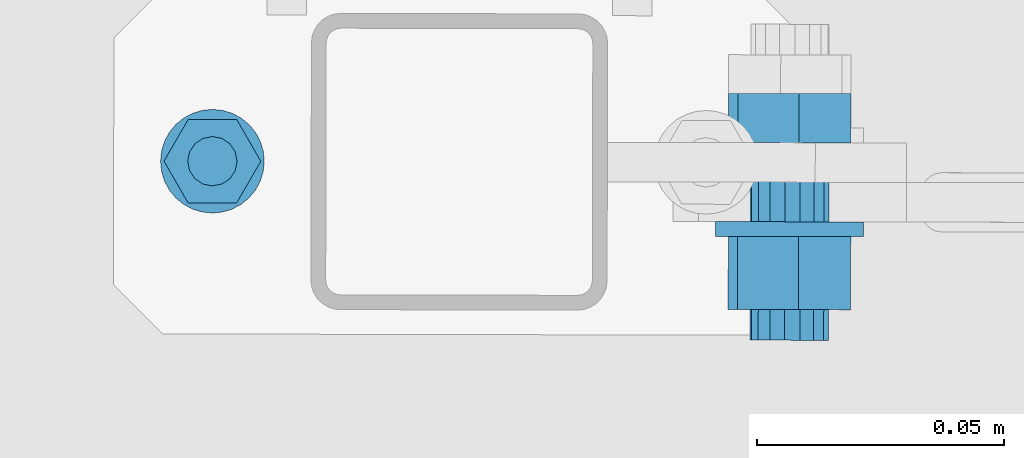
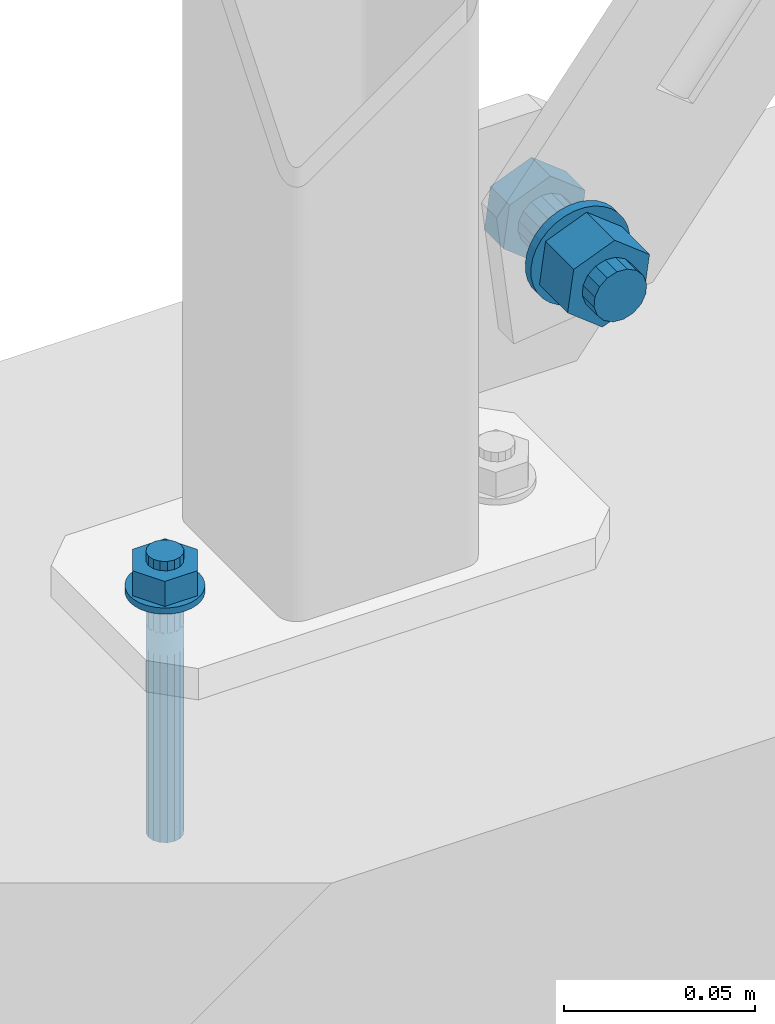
# One storey, part 206 of 288: 2 mechanical fasteners.
"""IFC2X3 building model written with IfcOpenShell, lengths in millimetres."""

from ifc_helpers import new_model, entity, si_unit, converted_unit, origin_with_axes, place, context, project, spatial, faceted_brep, element, save


model = new_model("IFC2X3")

# Units and contexts
model_context = context("Model", 3, precision=1e-09, world=origin_with_axes())
ifc_project = project(units=[si_unit("LENGTHUNIT", "METRE", prefix="MILLI"), si_unit("AREAUNIT", "SQUARE_METRE"), si_unit("VOLUMEUNIT", "CUBIC_METRE"), converted_unit("PLANEANGLEUNIT", "DEGREE", entity("IfcPlaneAngleMeasure", 0.01745329), si_unit("PLANEANGLEUNIT", "RADIAN"), dimensions=[0, 0, 0, 0, 0, 0, 0])], contexts=[model_context])

# Site, building, storey
site_placement = place(None, origin_with_axes())
site = spatial("IfcSite", under=ifc_project, at=site_placement, Name="Remont ?wietlik?w nad MC w NCPP w Opolu", CompositionType="ELEMENT")
building_placement = place(site_placement, origin_with_axes())
building = spatial("IfcBuilding", under=site, at=building_placement, Name="Konstrukcja 1", CompositionType="ELEMENT")
storey_placement = place(building_placement, origin_with_axes())
storey = spatial("IfcBuildingStorey", under=building, at=storey_placement, Name="Default Storey", CompositionType="ELEMENT", Elevation=0.0)

# Mechanical fasteners
mechanical_fastener_1_placement = place(None, origin_with_axes())
element("IfcMechanicalFastener", 1, at=mechanical_fastener_1_placement, inside=storey, ObjectType="Anchor_Bolt", NominalDiameter=10.0, NominalLength=90.0, context=model_context, shape_type="Brep", body=[
    faceted_brep([(5946.844747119, -127.906561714, 12.000000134), (5946.844747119, -127.906561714, 10.000000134), (5944.795847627, -128.103682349, 10.000000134), (5944.795847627, -128.103682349, 12.000000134), (5942.824773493, -128.696735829, 10.000000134), (5942.824773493, -128.696735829, 12.000000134), (5941.00727199, -129.662931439, 10.000000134), (5941.00727199, -129.662931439, 12.000000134), (5939.413188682, -130.965138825, 10.000000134), (5939.413188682, -130.965138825, 12.000000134), (5938.103783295, -132.553314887, 10.000000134), (5938.103783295, -132.553314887, 12.000000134), (5937.129375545, -134.366426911, 10.000000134), (5937.129375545, -134.366426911, 12.000000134), (5936.527411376, -136.334798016, 10.000000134), (5936.527411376, -136.334798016, 12.000000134), (5936.321023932, -138.382784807, 10.000000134), (5936.321023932, -138.382784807, 12.000000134), (5936.518144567, -140.431684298, 10.000000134), (5936.518144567, -140.431684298, 12.000000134), (5937.111198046, -142.402758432, 10.000000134), (5937.111198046, -142.402758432, 12.000000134), (5938.077393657, -144.220259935, 10.000000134), (5938.077393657, -144.220259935, 12.000000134), (5939.379601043, -145.814343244, 10.000000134), (5939.379601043, -145.814343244, 12.000000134), (5940.967777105, -147.12374863, 10.000000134), (5940.967777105, -147.12374863, 12.000000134), (5942.780889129, -148.09815638, 10.000000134), (5942.780889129, -148.09815638, 12.000000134), (5944.749260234, -148.70012055, 10.000000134), (5944.749260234, -148.70012055, 12.000000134), (5946.797247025, -148.906507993, 10.000000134), (5946.797247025, -148.906507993, 12.000000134), (5948.846146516, -148.709387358, 10.000000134), (5948.846146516, -148.709387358, 12.000000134), (5950.81722065, -148.116333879, 10.000000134), (5950.81722065, -148.116333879, 12.000000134), (5952.634722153, -147.150138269, 10.000000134), (5952.634722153, -147.150138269, 12.000000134), (5954.228805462, -145.847930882, 10.000000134), (5954.228805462, -145.847930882, 12.000000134), (5955.538210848, -144.25975482, 10.000000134), (5955.538210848, -144.25975482, 12.000000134), (5956.512618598, -142.446642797, 10.000000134), (5956.512618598, -142.446642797, 12.000000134), (5957.114582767, -140.478271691, 10.000000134), (5957.114582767, -140.478271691, 12.000000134), (5957.320970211, -138.430284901, 10.000000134), (5957.320970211, -138.430284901, 12.000000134), (5957.123849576, -136.381385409, 10.000000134), (5957.123849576, -136.381385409, 12.000000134), (5956.530796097, -134.410311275, 10.000000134), (5956.530796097, -134.410311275, 12.000000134), (5955.564600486, -132.592809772, 10.000000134), (5955.564600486, -132.592809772, 12.000000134), (5954.2623931, -130.998726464, 10.000000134), (5954.2623931, -130.998726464, 12.000000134), (5952.674217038, -129.689321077, 10.000000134), (5952.674217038, -129.689321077, 12.000000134), (5950.861105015, -128.714913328, 10.000000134), (5950.861105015, -128.714913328, 12.000000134), (5948.892733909, -128.112949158, 10.000000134), (5948.892733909, -128.112949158, 12.000000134)], [[[0, 1, 2, 3]], [[3, 2, 4, 5]], [[5, 4, 6, 7]], [[7, 6, 8, 9]], [[9, 8, 10, 11]], [[11, 10, 12, 13]], [[13, 12, 14, 15]], [[15, 14, 16, 17]], [[17, 16, 18, 19]], [[19, 18, 20, 21]], [[21, 20, 22, 23]], [[23, 22, 24, 25]], [[25, 24, 26, 27]], [[27, 26, 28, 29]], [[29, 28, 30, 31]], [[31, 30, 32, 33]], [[33, 32, 34, 35]], [[35, 34, 36, 37]], [[37, 36, 38, 39]], [[39, 38, 40, 41]], [[41, 40, 42, 43]], [[43, 42, 44, 45]], [[45, 44, 46, 47]], [[47, 46, 48, 49]], [[49, 48, 50, 51]], [[51, 50, 52, 53]], [[53, 52, 54, 55]], [[55, 54, 56, 57]], [[57, 56, 58, 59]], [[59, 58, 60, 61]], [[61, 60, 62, 63]], [[63, 62, 1, 0]], [[0, 3, 5, 7, 9, 11, 13, 15, 17, 19, 21, 23, 25, 27, 29, 31, 33, 35, 37, 39, 41, 43, 45, 47, 49, 51, 53, 55, 57, 59, 61, 63]], [[1, 62, 60, 58, 56, 54, 52, 50, 48, 46, 44, 42, 40, 38, 36, 34, 32, 30, 28, 26, 24, 22, 20, 18, 16, 14, 12, 10, 8, 6, 4, 2]]]),
    faceted_brep([(5941.901812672, -146.882478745, 12.000000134), (5941.901812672, -146.882478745, 20.000000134), (5937.021022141, -138.384368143, 20.000000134), (5937.021022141, -138.384368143, 12.000000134), (5941.940206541, -129.908424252, 20.000000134), (5941.940206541, -129.908424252, 12.000000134), (5951.740181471, -129.930590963, 20.000000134), (5951.740181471, -129.930590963, 12.000000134), (5956.620972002, -138.428701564, 20.000000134), (5956.620972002, -138.428701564, 12.000000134), (5951.701787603, -146.904645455, 20.000000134), (5951.701787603, -146.904645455, 12.000000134)], [[[0, 1, 2, 3]], [[3, 2, 4, 5]], [[5, 4, 6, 7]], [[7, 6, 8, 9]], [[9, 8, 10, 11]], [[11, 10, 1, 0]], [[4, 2, 1, 10, 8, 6]], [[0, 3, 5, 7, 9, 11]]]),
    faceted_brep([(5946.832306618, -133.406547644, 23.000000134), (5946.832306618, -133.406547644, 20.000000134), (5944.918033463, -133.782821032, 20.000000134), (5944.918033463, -133.782821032, 23.000000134), (5943.293469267, -134.863012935, 20.000000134), (5943.293469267, -134.863012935, 23.000000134), (5942.205939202, -136.482673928, 20.000000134), (5942.205939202, -136.482673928, 23.000000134), (5941.821009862, -138.395225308, 20.000000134), (5941.821009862, -138.395225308, 23.000000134), (5942.19728325, -140.309498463, 20.000000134), (5942.19728325, -140.309498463, 23.000000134), (5943.277475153, -141.934062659, 20.000000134), (5943.277475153, -141.934062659, 23.000000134), (5944.897136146, -143.021592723, 20.000000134), (5944.897136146, -143.021592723, 23.000000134), (5946.809687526, -143.406522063, 20.000000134), (5946.809687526, -143.406522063, 23.000000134), (5948.723960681, -143.030248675, 20.000000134), (5948.723960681, -143.030248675, 23.000000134), (5950.348524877, -141.950056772, 20.000000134), (5950.348524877, -141.950056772, 23.000000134), (5951.436054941, -140.330395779, 20.000000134), (5951.436054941, -140.330395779, 23.000000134), (5951.820984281, -138.4178444, 20.000000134), (5951.820984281, -138.4178444, 23.000000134), (5951.444710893, -136.503571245, 20.000000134), (5951.444710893, -136.503571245, 23.000000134), (5950.36451899, -134.879007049, 20.000000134), (5950.36451899, -134.879007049, 23.000000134), (5948.744857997, -133.791476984, 20.000000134), (5948.744857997, -133.791476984, 23.000000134)], [[[0, 1, 2, 3]], [[3, 2, 4, 5]], [[5, 4, 6, 7]], [[7, 6, 8, 9]], [[9, 8, 10, 11]], [[11, 10, 12, 13]], [[13, 12, 14, 15]], [[15, 14, 16, 17]], [[17, 16, 18, 19]], [[19, 18, 20, 21]], [[21, 20, 22, 23]], [[23, 22, 24, 25]], [[25, 24, 26, 27]], [[27, 26, 28, 29]], [[29, 28, 30, 31]], [[31, 30, 1, 0]], [[0, 3, 5, 7, 9, 11, 13, 15, 17, 19, 21, 23, 25, 27, 29, 31]], [[1, 30, 28, 26, 24, 22, 20, 18, 16, 14, 12, 10, 8, 6, 4, 2]]]),
    faceted_brep([(5946.832306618, -133.406547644, 10.00000039), (5946.832306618, -133.406547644, 1.34e-07), (5944.918033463, -133.782821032, 1.34e-07), (5944.918033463, -133.782821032, 10.00000039), (5943.293469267, -134.863012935, 1.34e-07), (5943.293469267, -134.863012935, 10.00000039), (5942.205939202, -136.482673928, 1.34e-07), (5942.205939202, -136.482673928, 10.00000039), (5941.821009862, -138.395225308, 1.34e-07), (5941.821009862, -138.395225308, 10.00000039), (5942.19728325, -140.309498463, 1.34e-07), (5942.19728325, -140.309498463, 10.00000039), (5943.277475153, -141.934062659, 1.34e-07), (5943.277475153, -141.934062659, 10.00000039), (5944.897136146, -143.021592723, 1.34e-07), (5944.897136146, -143.021592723, 10.00000039), (5946.809687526, -143.406522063, 1.34e-07), (5946.809687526, -143.406522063, 10.00000039), (5948.723960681, -143.030248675, 1.34e-07), (5948.723960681, -143.030248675, 10.00000039), (5950.348524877, -141.950056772, 1.34e-07), (5950.348524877, -141.950056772, 10.00000039), (5951.436054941, -140.330395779, 1.34e-07), (5951.436054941, -140.330395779, 10.00000039), (5951.820984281, -138.4178444, 1.34e-07), (5951.820984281, -138.4178444, 10.00000039), (5951.444710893, -136.503571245, 1.34e-07), (5951.444710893, -136.503571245, 10.00000039), (5950.36451899, -134.879007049, 1.34e-07), (5950.36451899, -134.879007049, 10.00000039), (5948.744857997, -133.791476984, 1.34e-07), (5948.744857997, -133.791476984, 10.00000039)], [[[0, 1, 2, 3]], [[3, 2, 4, 5]], [[5, 4, 6, 7]], [[7, 6, 8, 9]], [[9, 8, 10, 11]], [[11, 10, 12, 13]], [[13, 12, 14, 15]], [[15, 14, 16, 17]], [[17, 16, 18, 19]], [[19, 18, 20, 21]], [[21, 20, 22, 23]], [[23, 22, 24, 25]], [[25, 24, 26, 27]], [[27, 26, 28, 29]], [[29, 28, 30, 31]], [[31, 30, 1, 0]], [[0, 3, 5, 7, 9, 11, 13, 15, 17, 19, 21, 23, 25, 27, 29, 31]], [[1, 30, 28, 26, 24, 22, 20, 18, 16, 14, 12, 10, 8, 6, 4, 2]]]),
    faceted_brep([(5946.832306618, -133.406547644, -1.21e-07), (5946.832306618, -133.406547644, -6.999999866), (5945.856640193, -133.500414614, -6.999999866), (5945.856640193, -133.500414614, -1.21e-07), (5944.918033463, -133.782821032, -6.999999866), (5944.918033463, -133.782821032, -1.21e-07), (5944.052556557, -134.24291418, -6.999999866), (5944.052556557, -134.24291418, -1.21e-07), (5943.293469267, -134.863012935, -6.999999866), (5943.293469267, -134.863012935, -1.21e-07), (5942.669942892, -135.619287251, -6.999999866), (5942.669942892, -135.619287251, -1.21e-07), (5942.205939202, -136.482673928, -6.999999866), (5942.205939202, -136.482673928, -1.21e-07), (5941.919289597, -137.419993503, -6.999999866), (5941.919289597, -137.419993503, -1.21e-07), (5941.821009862, -138.395225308, -6.999999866), (5941.821009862, -138.395225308, -1.21e-07), (5941.914876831, -139.370891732, -6.999999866), (5941.914876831, -139.370891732, -1.21e-07), (5942.19728325, -140.309498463, -6.999999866), (5942.19728325, -140.309498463, -1.21e-07), (5942.657376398, -141.174975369, -6.999999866), (5942.657376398, -141.174975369, -1.21e-07), (5943.277475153, -141.934062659, -6.999999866), (5943.277475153, -141.934062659, -1.21e-07), (5944.033749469, -142.557589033, -6.999999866), (5944.033749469, -142.557589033, -1.21e-07), (5944.897136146, -143.021592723, -6.999999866), (5944.897136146, -143.021592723, -1.21e-07), (5945.834455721, -143.308242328, -6.999999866), (5945.834455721, -143.308242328, -1.21e-07), (5946.809687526, -143.406522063, -6.999999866), (5946.809687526, -143.406522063, -1.21e-07), (5947.78535395, -143.312655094, -6.999999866), (5947.78535395, -143.312655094, -1.21e-07), (5948.723960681, -143.030248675, -6.999999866), (5948.723960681, -143.030248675, -1.21e-07), (5949.589437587, -142.570155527, -6.999999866), (5949.589437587, -142.570155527, -1.21e-07), (5950.348524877, -141.950056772, -6.999999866), (5950.348524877, -141.950056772, -1.21e-07), (5950.972051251, -141.193782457, -6.999999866), (5950.972051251, -141.193782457, -1.21e-07), (5951.436054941, -140.330395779, -6.999999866), (5951.436054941, -140.330395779, -1.21e-07), (5951.722704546, -139.393076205, -6.999999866), (5951.722704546, -139.393076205, -1.21e-07), (5951.820984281, -138.4178444, -6.999999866), (5951.820984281, -138.4178444, -1.21e-07), (5951.727117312, -137.442177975, -6.999999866), (5951.727117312, -137.442177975, -1.21e-07), (5951.444710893, -136.503571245, -6.999999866), (5951.444710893, -136.503571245, -1.21e-07), (5950.984617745, -135.638094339, -6.999999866), (5950.984617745, -135.638094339, -1.21e-07), (5950.36451899, -134.879007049, -6.999999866), (5950.36451899, -134.879007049, -1.21e-07), (5949.608244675, -134.255480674, -6.999999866), (5949.608244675, -134.255480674, -1.21e-07), (5948.744857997, -133.791476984, -6.999999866), (5948.744857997, -133.791476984, -1.21e-07), (5947.807538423, -133.50482738, -6.999999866), (5947.807538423, -133.50482738, -1.21e-07)], [[[0, 1, 2, 3]], [[3, 2, 4, 5]], [[5, 4, 6, 7]], [[7, 6, 8, 9]], [[9, 8, 10, 11]], [[11, 10, 12, 13]], [[13, 12, 14, 15]], [[15, 14, 16, 17]], [[17, 16, 18, 19]], [[19, 18, 20, 21]], [[21, 20, 22, 23]], [[23, 22, 24, 25]], [[25, 24, 26, 27]], [[27, 26, 28, 29]], [[29, 28, 30, 31]], [[31, 30, 32, 33]], [[33, 32, 34, 35]], [[35, 34, 36, 37]], [[37, 36, 38, 39]], [[39, 38, 40, 41]], [[41, 40, 42, 43]], [[43, 42, 44, 45]], [[45, 44, 46, 47]], [[47, 46, 48, 49]], [[49, 48, 50, 51]], [[51, 50, 52, 53]], [[53, 52, 54, 55]], [[55, 54, 56, 57]], [[57, 56, 58, 59]], [[59, 58, 60, 61]], [[61, 60, 62, 63]], [[63, 62, 1, 0]], [[0, 3, 5, 7, 9, 11, 13, 15, 17, 19, 21, 23, 25, 27, 29, 31, 33, 35, 37, 39, 41, 43, 45, 47, 49, 51, 53, 55, 57, 59, 61, 63]], [[1, 62, 60, 58, 56, 54, 52, 50, 48, 46, 44, 42, 40, 38, 36, 34, 32, 30, 28, 26, 24, 22, 20, 18, 16, 14, 12, 10, 8, 6, 4, 2]]]),
    faceted_brep([(5946.832306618, -133.406547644, -6.999999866), (5946.832306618, -133.406547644, -66.999999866), (5944.918033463, -133.782821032, -66.999999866), (5944.918033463, -133.782821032, -6.999999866), (5943.293469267, -134.863012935, -66.999999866), (5943.293469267, -134.863012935, -6.999999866), (5942.205939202, -136.482673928, -66.999999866), (5942.205939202, -136.482673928, -6.999999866), (5941.821009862, -138.395225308, -66.999999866), (5941.821009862, -138.395225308, -6.999999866), (5942.19728325, -140.309498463, -66.999999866), (5942.19728325, -140.309498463, -6.999999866), (5943.277475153, -141.934062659, -66.999999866), (5943.277475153, -141.934062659, -6.999999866), (5944.897136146, -143.021592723, -66.999999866), (5944.897136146, -143.021592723, -6.999999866), (5946.809687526, -143.406522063, -66.999999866), (5946.809687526, -143.406522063, -6.999999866), (5948.723960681, -143.030248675, -66.999999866), (5948.723960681, -143.030248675, -6.999999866), (5950.348524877, -141.950056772, -66.999999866), (5950.348524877, -141.950056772, -6.999999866), (5951.436054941, -140.330395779, -66.999999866), (5951.436054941, -140.330395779, -6.999999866), (5951.820984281, -138.4178444, -66.999999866), (5951.820984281, -138.4178444, -6.999999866), (5951.444710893, -136.503571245, -66.999999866), (5951.444710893, -136.503571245, -6.999999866), (5950.36451899, -134.879007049, -66.999999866), (5950.36451899, -134.879007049, -6.999999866), (5948.744857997, -133.791476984, -66.999999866), (5948.744857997, -133.791476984, -6.999999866)], [[[0, 1, 2, 3]], [[3, 2, 4, 5]], [[5, 4, 6, 7]], [[7, 6, 8, 9]], [[9, 8, 10, 11]], [[11, 10, 12, 13]], [[13, 12, 14, 15]], [[15, 14, 16, 17]], [[17, 16, 18, 19]], [[19, 18, 20, 21]], [[21, 20, 22, 23]], [[23, 22, 24, 25]], [[25, 24, 26, 27]], [[27, 26, 28, 29]], [[29, 28, 30, 31]], [[31, 30, 1, 0]], [[0, 3, 5, 7, 9, 11, 13, 15, 17, 19, 21, 23, 25, 27, 29, 31]], [[1, 30, 28, 26, 24, 22, 20, 18, 16, 14, 12, 10, 8, 6, 4, 2]]]),
])
mechanical_fastener_2_placement = place(None, origin_with_axes())
element("IfcMechanicalFastener", 2, at=mechanical_fastener_2_placement, inside=storey, ObjectType="Bolt#1", NominalDiameter=16.0, NominalLength=40.0, context=model_context, shape_type="Brep", body=[
    faceted_brep([(6065.627307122, -134.674738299, 98.930498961), (6065.649851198, -124.67476371, 98.930498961), (6053.249086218, -124.646807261, 93.919424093), (6053.226542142, -134.646781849, 93.919424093), (6051.388410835, -124.64261253, 80.674481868), (6051.36586676, -134.642587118, 80.674481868), (6061.928500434, -124.666374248, 72.440614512), (6061.905956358, -134.666348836, 72.440614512), (6074.329265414, -124.694330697, 77.45168938), (6074.306721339, -134.694305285, 77.45168938), (6076.189940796, -124.698525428, 90.696631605), (6076.167396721, -134.698500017, 90.696631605)], [[[0, 1, 2, 3]], [[3, 2, 4, 5]], [[5, 4, 6, 7]], [[7, 6, 8, 9]], [[9, 8, 10, 11]], [[11, 10, 1, 0]], [[4, 2, 1, 10, 8, 6]], [[0, 3, 5, 7, 9, 11]]]),
    faceted_brep([(6058.841714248, -134.659440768, 79.381188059), (6058.805643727, -150.659400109, 79.381188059), (6056.767959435, -150.654806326, 81.745768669), (6056.804029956, -134.654846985, 81.745768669), (6055.790268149, -150.652602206, 84.710146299), (6055.82633867, -134.652642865, 84.710146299), (6056.021414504, -150.653123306, 87.823021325), (6056.057485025, -134.653163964, 87.823021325), (6057.426208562, -150.656290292, 90.610486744), (6057.462279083, -134.656330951, 90.610486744), (6059.790783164, -150.66162102, 92.648176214), (6059.826853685, -134.661661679, 92.648176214), (6062.75515326, -150.668303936, 93.625869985), (6062.791223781, -134.668344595, 93.625869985), (6065.868020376, -150.675321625, 93.394723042), (6065.904090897, -134.675362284, 93.394723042), (6068.655478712, -150.681605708, 91.989925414), (6068.691549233, -134.681646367, 91.989925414), (6070.693163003, -150.68619949, 89.625344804), (6070.729233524, -134.686240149, 89.625344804), (6071.67085429, -150.688403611, 86.660967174), (6071.706924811, -134.688444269, 86.660967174), (6071.439707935, -150.687882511, 83.548092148), (6071.475778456, -134.68792317, 83.548092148), (6070.034913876, -150.684715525, 80.760626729), (6070.070984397, -134.684756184, 80.760626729), (6067.670339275, -150.679384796, 78.722937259), (6067.706409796, -134.679425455, 78.722937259), (6064.705969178, -150.672701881, 77.745243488), (6064.742039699, -134.67274254, 77.745243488), (6061.593102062, -150.665684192, 77.976390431), (6061.629172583, -134.665724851, 77.976390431)], [[[0, 1, 2, 3]], [[3, 2, 4, 5]], [[5, 4, 6, 7]], [[7, 6, 8, 9]], [[9, 8, 10, 11]], [[11, 10, 12, 13]], [[13, 12, 14, 15]], [[15, 14, 16, 17]], [[17, 16, 18, 19]], [[19, 18, 20, 21]], [[21, 20, 22, 23]], [[23, 22, 24, 25]], [[25, 24, 26, 27]], [[27, 26, 28, 29]], [[29, 28, 30, 31]], [[31, 30, 1, 0]], [[0, 3, 5, 7, 9, 11, 13, 15, 17, 19, 21, 23, 25, 27, 29, 31]], [[1, 30, 28, 26, 24, 22, 20, 18, 16, 14, 12, 10, 8, 6, 4, 2]]]),
    faceted_brep([(6054.496340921, -150.649685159, 73.864865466), (6054.489577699, -153.649677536, 73.864865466), (6052.360914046, -153.644878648, 75.893508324), (6052.367677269, -150.644886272, 75.893508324), (6050.668919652, -153.641064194, 78.298454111), (6050.675682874, -150.641071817, 78.298454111), (6049.47861691, -153.638380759, 80.987282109), (6049.485380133, -150.638388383, 80.987282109), (6048.83574849, -153.636931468, 83.856662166), (6048.842511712, -150.636939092, 83.856662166), (6048.765019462, -153.636772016, 86.796325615), (6048.771782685, -150.636779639, 86.796325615), (6049.269147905, -153.63790853, 89.69330284), (6049.275911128, -150.637916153, 89.69330284), (6050.328760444, -153.640297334, 92.436264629), (6050.335523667, -150.640304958, 92.436264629), (6051.903136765, -153.643846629, 94.9198005), (6051.909899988, -150.643854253, 94.9198005), (6053.931774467, -153.648420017, 97.048469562), (6053.93853769, -150.64842764, 97.048469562), (6056.336714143, -153.653841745, 98.740468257), (6056.343477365, -150.653849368, 98.740468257), (6059.025535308, -153.659903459, 99.930774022), (6059.032298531, -150.659911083, 99.930774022), (6061.894908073, -153.666372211, 100.573644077), (6061.901671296, -150.666379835, 100.573644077), (6064.834564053, -153.672999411, 100.644373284), (6064.841327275, -150.673007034, 100.644373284), (6067.731533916, -153.679530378, 100.14024356), (6067.738297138, -150.679538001, 100.14024356), (6070.474488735, -153.685714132, 99.080628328), (6070.481251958, -150.685721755, 99.080628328), (6072.958018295, -153.691313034, 97.506248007), (6072.964781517, -150.691320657, 97.506248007), (6075.086681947, -153.696111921, 95.477605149), (6075.09344517, -150.696119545, 95.477605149), (6076.778676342, -153.699926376, 93.072659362), (6076.785439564, -150.699934, 93.072659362), (6077.968979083, -153.70260981, 90.383831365), (6077.975742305, -150.702617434, 90.383831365), (6078.611847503, -153.704059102, 87.514451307), (6078.618610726, -150.704066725, 87.514451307), (6078.682576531, -153.704218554, 84.574787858), (6078.689339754, -150.704226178, 84.574787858), (6078.178448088, -153.70308204, 81.677810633), (6078.185211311, -150.703089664, 81.677810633), (6077.118835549, -153.700693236, 78.934848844), (6077.125598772, -150.700700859, 78.934848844), (6075.544459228, -153.697143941, 76.451312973), (6075.551222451, -150.697151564, 76.451312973), (6073.515821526, -153.692570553, 74.322643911), (6073.522584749, -150.692578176, 74.322643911), (6071.110881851, -153.687148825, 72.630645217), (6071.117645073, -150.687156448, 72.630645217), (6068.422060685, -153.681087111, 71.440339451), (6068.428823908, -150.681094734, 71.440339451), (6065.55268792, -153.674618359, 70.797469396), (6065.559451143, -150.674625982, 70.797469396), (6062.61303194, -153.667991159, 70.726740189), (6062.619795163, -150.667998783, 70.726740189), (6059.716062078, -153.661460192, 71.230869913), (6059.7228253, -150.661467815, 71.230869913), (6056.973107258, -153.655276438, 72.290485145), (6056.979870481, -150.655284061, 72.290485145)], [[[0, 1, 2, 3]], [[3, 2, 4, 5]], [[5, 4, 6, 7]], [[7, 6, 8, 9]], [[9, 8, 10, 11]], [[11, 10, 12, 13]], [[13, 12, 14, 15]], [[15, 14, 16, 17]], [[17, 16, 18, 19]], [[19, 18, 20, 21]], [[21, 20, 22, 23]], [[23, 22, 24, 25]], [[25, 24, 26, 27]], [[27, 26, 28, 29]], [[29, 28, 30, 31]], [[31, 30, 32, 33]], [[33, 32, 34, 35]], [[35, 34, 36, 37]], [[37, 36, 38, 39]], [[39, 38, 40, 41]], [[41, 40, 42, 43]], [[43, 42, 44, 45]], [[45, 44, 46, 47]], [[47, 46, 48, 49]], [[49, 48, 50, 51]], [[51, 50, 52, 53]], [[53, 52, 54, 55]], [[55, 54, 56, 57]], [[57, 56, 58, 59]], [[59, 58, 60, 61]], [[61, 60, 62, 63]], [[63, 62, 1, 0]], [[0, 3, 5, 7, 9, 11, 13, 15, 17, 19, 21, 23, 25, 27, 29, 31, 33, 35, 37, 39, 41, 43, 45, 47, 49, 51, 53, 55, 57, 59, 61, 63]], [[1, 62, 60, 58, 56, 54, 52, 50, 48, 46, 44, 42, 40, 38, 36, 34, 32, 30, 28, 26, 24, 22, 20, 18, 16, 14, 12, 10, 8, 6, 4, 2]]]),
    faceted_brep([(6065.551108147, -168.474652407, 98.930498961), (6065.584473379, -153.674690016, 98.930498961), (6053.183708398, -153.646733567, 93.919424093), (6053.150343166, -168.446695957, 93.919424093), (6051.323033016, -153.642538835, 80.674481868), (6051.289667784, -168.442501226, 80.674481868), (6061.863122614, -153.666300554, 72.440614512), (6061.829757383, -168.466262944, 72.440614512), (6074.263887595, -153.694257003, 77.45168938), (6074.230522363, -168.494219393, 77.45168938), (6076.124562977, -153.698451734, 90.696631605), (6076.091197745, -168.498414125, 90.696631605)], [[[0, 1, 2, 3]], [[3, 2, 4, 5]], [[5, 4, 6, 7]], [[7, 6, 8, 9]], [[9, 8, 10, 11]], [[11, 10, 1, 0]], [[4, 2, 1, 10, 8, 6]], [[0, 3, 5, 7, 9, 11]]]),
    faceted_brep([(6058.765515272, -168.459354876, 79.381188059), (6058.751537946, -174.659339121, 79.381188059), (6056.713853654, -174.654745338, 81.745768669), (6056.727830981, -168.454761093, 81.745768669), (6055.736162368, -174.652541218, 84.710146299), (6055.750139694, -168.452556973, 84.710146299), (6055.967308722, -174.653062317, 87.823021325), (6055.981286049, -168.453078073, 87.823021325), (6057.372102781, -174.656229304, 90.610486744), (6057.386080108, -168.456245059, 90.610486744), (6059.736677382, -174.661560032, 92.648176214), (6059.750654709, -168.461575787, 92.648176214), (6062.701047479, -174.668242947, 93.625869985), (6062.715024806, -168.468258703, 93.625869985), (6065.813914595, -174.675260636, 93.394723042), (6065.827891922, -168.475276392, 93.394723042), (6068.60137293, -174.681544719, 91.989925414), (6068.615350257, -168.481560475, 91.989925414), (6070.639057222, -174.686138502, 89.625344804), (6070.653034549, -168.486154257, 89.625344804), (6071.616748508, -174.688342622, 86.660967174), (6071.630725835, -168.488358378, 86.660967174), (6071.385602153, -174.687821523, 83.548092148), (6071.39957948, -168.487837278, 83.548092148), (6069.980808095, -174.684654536, 80.760626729), (6069.994785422, -168.484670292, 80.760626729), (6067.616233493, -174.679323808, 78.722937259), (6067.63021082, -168.479339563, 78.722937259), (6064.651863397, -174.672640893, 77.745243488), (6064.665840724, -168.472656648, 77.745243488), (6061.538996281, -174.665623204, 77.976390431), (6061.552973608, -168.465638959, 77.976390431)], [[[0, 1, 2, 3]], [[3, 2, 4, 5]], [[5, 4, 6, 7]], [[7, 6, 8, 9]], [[9, 8, 10, 11]], [[11, 10, 12, 13]], [[13, 12, 14, 15]], [[15, 14, 16, 17]], [[17, 16, 18, 19]], [[19, 18, 20, 21]], [[21, 20, 22, 23]], [[23, 22, 24, 25]], [[25, 24, 26, 27]], [[27, 26, 28, 29]], [[29, 28, 30, 31]], [[31, 30, 1, 0]], [[0, 3, 5, 7, 9, 11, 13, 15, 17, 19, 21, 23, 25, 27, 29, 31]], [[1, 30, 28, 26, 24, 22, 20, 18, 16, 14, 12, 10, 8, 6, 4, 2]]]),
])

save(model, "model.ifc")
